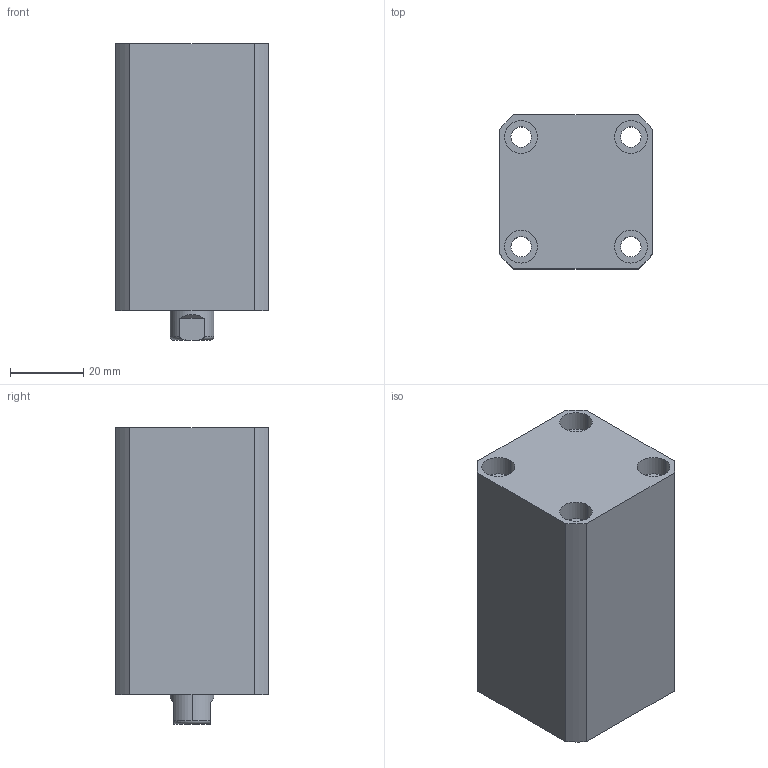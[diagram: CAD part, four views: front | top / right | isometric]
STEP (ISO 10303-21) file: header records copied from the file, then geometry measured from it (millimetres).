
FILE_DESCRIPTION (( 'STEP AP214' ), '1' );
FILE_NAME ('chtb-sd20x30n_asm.STEP', '2018-04-26T11:39:17', ( 'Windows' ), ( 'Microsoft' ), 'SwSTEP 2.0', 'SolidWorks 2015', '' );
FILE_SCHEMA (( 'AUTOMOTIVE_DESIGN' ));
Length unit declared in the file: millimetre
Products named in the file (4): QG; CHTB-SD20X30NHSG; CHTB-SD20X30NBT; chtb-sd20x30n_asm
Assembly tree (3 placements, depth 2):
  chtb-sd20x30n_asm
    CHTB-SD20X30NBT
    CHTB-SD20X30NHSG
    QG
Bounding box: 42 x 42 x 81 mm (x, y, z)
Volume: 108909 mm3; surface area: 34544.9 mm2
Topology: 3 solids, 3 shells, 192 faces, 499 edges, 330 vertices
Faces by surface type: cylinder 102, plane 36, torus 25, bspline 19, cone 10
Entity records: 10524 total; most frequent: CARTESIAN_POINT 5851, ORIENTED_EDGE 986, DIRECTION 903, EDGE_CURVE 493, AXIS2_PLACEMENT_3D 385, VERTEX_POINT 330, EDGE_LOOP 229, CIRCLE 206
